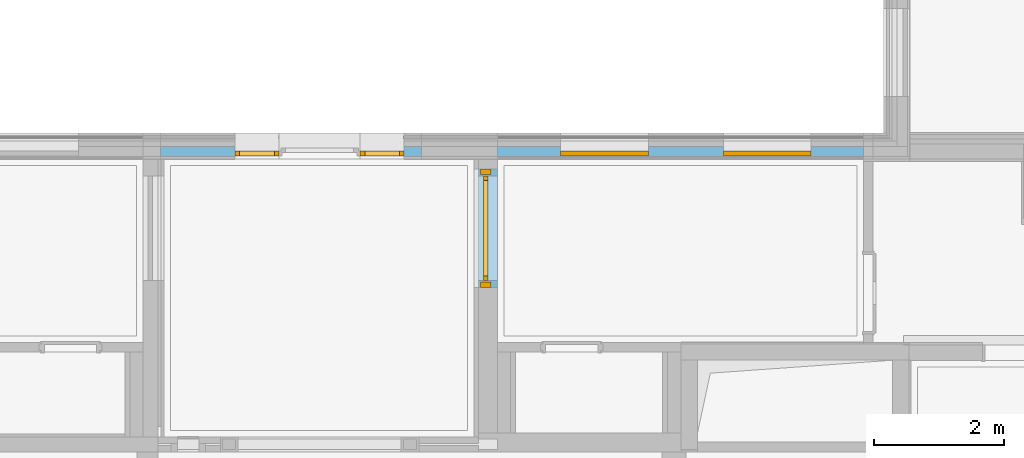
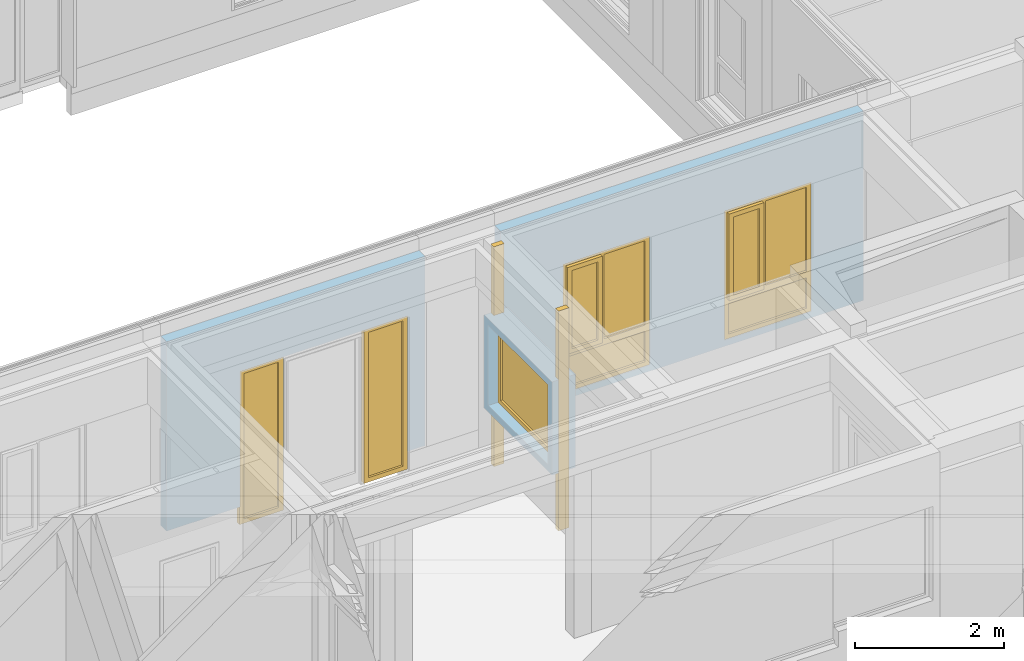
# One storey, part 104 of 207: 5 windows, 6 openings, plus 3 elements that do not belong to this part.
"""IFC4 building model written with IfcOpenShell, lengths in metres."""

from ifc_helpers import new_model, entity, si_unit, converted_unit, derived_unit, frame, frame_2d, origin, origin_with_axes, place, context, subcontext, project, spatial, polyline, rectangle, outline, extrude, closed_shell, open_shell, faceted_brep, surface_model, source, transform, mapped, material, element, fill, save


model = new_model("IFC4")

# Units and contexts
model_context = context("Model", 3, precision=1e-05, world=origin())
body_context = subcontext(model_context, "Body", "Model", "MODEL_VIEW")
ifc_project = project(units=[si_unit("LENGTHUNIT", "METRE"), si_unit("AREAUNIT", "SQUARE_METRE"), si_unit("VOLUMEUNIT", "CUBIC_METRE"), si_unit("MASSUNIT", "GRAM", prefix="KILO"), converted_unit("PLANEANGLEUNIT", "DEGREE", entity("IfcPlaneAngleMeasure", 0.0174532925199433), si_unit("PLANEANGLEUNIT", "RADIAN"), dimensions=[0, 0, 0, 0, 0, 0, 0]), derived_unit("THERMALTRANSMITTANCEUNIT", [(si_unit("POWERUNIT", "WATT"), 1), (si_unit("THERMODYNAMICTEMPERATUREUNIT", "KELVIN"), -1), (si_unit("LENGTHUNIT", "METRE"), -2)]), derived_unit("VOLUMETRICFLOWRATEUNIT", [(si_unit("LENGTHUNIT", "METRE"), 3), (converted_unit("TIMEUNIT", "hour", entity("IfcTimeMeasure", 3600.0), si_unit("TIMEUNIT", "SECOND"), dimensions=[0, 0, 1, 0, 0, 0, 0]), -1), (si_unit("LENGTHUNIT", "METRE"), -1)])], contexts=[model_context])

# Site, building, storey
site_placement = place(None, origin())
site = spatial("IfcSite", under=ifc_project, at=site_placement, Name="Psychiatrie Neubau Wunstorf", CompositionType="ELEMENT")
building_placement = place(site_placement, origin())
building = spatial("IfcBuilding", under=site, at=building_placement, Name="Neubau H2 Stationsgebäude", CompositionType="ELEMENT")
storey_placement = place(building_placement, frame((0.0, 0.0, -0.2)))
storey = spatial("IfcBuildingStorey", under=building, at=storey_placement, Name="H2 Ebene 0", CompositionType="ELEMENT", Elevation=-0.2)

# Wall, openings, windows
ifc_material_1 = material(Name="WA-HD")
wall_1_placement = place(storey_placement, frame((55.7325000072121, 10.1499996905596, 0.5)))
wall_1 = element("IfcWall", 1, at=wall_1_placement, inside=storey, material=ifc_material_1, context=body_context, shape_type="SweptSolid", body=[
    extrude(rectangle(XDim=5.61749999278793, YDim=0.16, at=frame_2d((2.80874999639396, 0.08), x_axis=(1.0, 0.0))), origin_with_axes(), (0.0, 0.0, 1.0), 3.1),
])
opening_1_placement = place(wall_1_placement, frame((4.81617713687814, 0.16, 0.1), z_axis=(0.0, -1.0, 0.0), x_axis=(0.0, 0.0, 1.0)))
opening_1 = element("IfcOpeningElement", 2, at=opening_1_placement, cuts=wall_1, Name="Fensteröffnung", ObjectType="Opening", context=body_context, shape_type="SweptSolid", body=[
    extrude(outline(polyline([(2.12, 1.35), (2.12, 0.0), (0.0, 0.0), (0.0, 1.35), (2.12, 1.35)])), origin_with_axes(), (0.0, 0.0, 1.0), 0.16),
])
opening_2_placement = place(wall_1_placement, frame((2.31617713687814, 0.16, 0.1), z_axis=(0.0, -1.0, 0.0), x_axis=(0.0, 0.0, 1.0)))
opening_2 = element("IfcOpeningElement", 3, at=opening_2_placement, cuts=wall_1, Name="Fensteröffnung", ObjectType="Opening", context=body_context, shape_type="SweptSolid", body=[
    extrude(outline(polyline([(2.12, 1.35), (2.12, 0.0), (0.0, 0.0), (0.0, 1.35), (2.12, 1.35)])), origin_with_axes(), (0.0, 0.0, 1.0), 0.16),
])
shared_shape_1 = source(origin_with_axes(), body_context, "Body", "SurfaceModel", [
    surface_model("IfcShellBasedSurfaceModel", [(0.0, 0.0, 2.12), (0.07, 0.0, 2.12), (0.07, 0.0, 0.0), (0.0, 0.0, 0.0), (0.0, 0.07, 0.0), (0.07, 0.07, 0.0), (0.07, 0.07, 2.12), (0.0, 0.07, 2.12)], [closed_shell([[[0, 1, 2, 3]], [[4, 5, 6, 7]], [[3, 4, 7, 0]], [[2, 5, 4, 3]], [[1, 6, 5, 2]], [[0, 7, 6, 1]]], orient=[[False], [False], [False], [False], [False], [False]])]),
    surface_model("IfcShellBasedSurfaceModel", [(1.28, 0.0, 2.12), (1.35, 0.0, 2.12), (1.35, 0.0, 0.0), (1.28, 0.0, 0.0), (1.28, 0.07, 0.0), (1.35, 0.07, 0.0), (1.35, 0.07, 2.12), (1.28, 0.07, 2.12)], [closed_shell([[[0, 1, 2, 3]], [[4, 5, 6, 7]], [[3, 4, 7, 0]], [[2, 5, 4, 3]], [[1, 6, 5, 2]], [[0, 7, 6, 1]]], orient=[[False], [False], [False], [False], [False], [False]])]),
    surface_model("IfcShellBasedSurfaceModel", [(0.07, 0.0, 0.07), (1.28, 0.0, 0.07), (1.28, 0.0, 0.0), (0.07, 0.0, 0.0), (0.07, 0.07, 0.0), (1.28, 0.07, 0.0), (1.28, 0.07, 0.07), (0.07, 0.07, 0.07)], [closed_shell([[[0, 1, 2, 3]], [[4, 5, 6, 7]], [[3, 4, 7, 0]], [[2, 5, 4, 3]], [[1, 6, 5, 2]], [[0, 7, 6, 1]]], orient=[[False], [False], [False], [False], [False], [False]])]),
    surface_model("IfcShellBasedSurfaceModel", [(0.07, 0.0, 2.12), (1.28, 0.0, 2.12), (1.28, 0.0, 2.05), (0.07, 0.0, 2.05), (0.07, 0.07, 2.05), (1.28, 0.07, 2.05), (1.28, 0.07, 2.12), (0.07, 0.07, 2.12)], [closed_shell([[[0, 1, 2, 3]], [[4, 5, 6, 7]], [[3, 4, 7, 0]], [[2, 5, 4, 3]], [[1, 6, 5, 2]], [[0, 7, 6, 1]]], orient=[[False], [False], [False], [False], [False], [False]])]),
    surface_model("IfcShellBasedSurfaceModel", [(0.07, 0.0, 0.67), (1.28, 0.0, 0.67), (1.28, 0.0, 0.57), (0.07, 0.0, 0.57), (0.07, 0.07, 0.57), (1.28, 0.07, 0.57), (1.28, 0.07, 0.67), (0.07, 0.07, 0.67)], [closed_shell([[[0, 1, 2, 3]], [[4, 5, 6, 7]], [[3, 4, 7, 0]], [[2, 5, 4, 3]], [[1, 6, 5, 2]], [[0, 7, 6, 1]]], orient=[[False], [False], [False], [False], [False], [False]])]),
    surface_model("IfcShellBasedSurfaceModel", [(0.07, 0.035, 0.07), (0.07, 0.035, 0.57), (1.28, 0.035, 0.57), (1.28, 0.035, 0.07)], [open_shell([[[0, 1, 2, 3]]], orient=[[False]])]),
    surface_model("IfcShellBasedSurfaceModel", [(0.57, 0.0, 2.05), (0.64, 0.0, 2.05), (0.64, 0.0, 0.67), (0.57, 0.0, 0.67), (0.57, 0.07, 0.67), (0.64, 0.07, 0.67), (0.64, 0.07, 2.05), (0.57, 0.07, 2.05)], [closed_shell([[[0, 1, 2, 3]], [[4, 5, 6, 7]], [[3, 4, 7, 0]], [[2, 5, 4, 3]], [[1, 6, 5, 2]], [[0, 7, 6, 1]]], orient=[[False], [False], [False], [False], [False], [False]])]),
    surface_model("IfcShellBasedSurfaceModel", [(0.05, -0.05, 2.07), (0.12, -0.05, 2.07), (0.12, -0.05, 0.65), (0.05, -0.05, 0.65), (0.05, 0.02, 0.65), (0.12, 0.02, 0.65), (0.12, 0.02, 2.07), (0.05, 0.02, 2.07)], [closed_shell([[[0, 1, 2, 3]], [[4, 5, 6, 7]], [[3, 4, 7, 0]], [[2, 5, 4, 3]], [[1, 6, 5, 2]], [[0, 7, 6, 1]]], orient=[[False], [False], [False], [False], [False], [False]])]),
    surface_model("IfcShellBasedSurfaceModel", [(0.52, -0.05, 2.07), (0.59, -0.05, 2.07), (0.59, -0.05, 0.65), (0.52, -0.05, 0.65), (0.52, 0.02, 0.65), (0.59, 0.02, 0.65), (0.59, 0.02, 2.07), (0.52, 0.02, 2.07)], [closed_shell([[[0, 1, 2, 3]], [[4, 5, 6, 7]], [[3, 4, 7, 0]], [[2, 5, 4, 3]], [[1, 6, 5, 2]], [[0, 7, 6, 1]]], orient=[[False], [False], [False], [False], [False], [False]])]),
    surface_model("IfcShellBasedSurfaceModel", [(0.12, -0.05, 0.72), (0.52, -0.05, 0.72), (0.52, -0.05, 0.65), (0.12, -0.05, 0.65), (0.12, 0.02, 0.65), (0.52, 0.02, 0.65), (0.52, 0.02, 0.72), (0.12, 0.02, 0.72)], [closed_shell([[[0, 1, 2, 3]], [[4, 5, 6, 7]], [[3, 4, 7, 0]], [[2, 5, 4, 3]], [[1, 6, 5, 2]], [[0, 7, 6, 1]]], orient=[[False], [False], [False], [False], [False], [False]])]),
    surface_model("IfcShellBasedSurfaceModel", [(0.12, -0.05, 2.07), (0.52, -0.05, 2.07), (0.52, -0.05, 2.0), (0.12, -0.05, 2.0), (0.12, 0.02, 2.0), (0.52, 0.02, 2.0), (0.52, 0.02, 2.07), (0.12, 0.02, 2.07)], [closed_shell([[[0, 1, 2, 3]], [[4, 5, 6, 7]], [[3, 4, 7, 0]], [[2, 5, 4, 3]], [[1, 6, 5, 2]], [[0, 7, 6, 1]]], orient=[[False], [False], [False], [False], [False], [False]])]),
    surface_model("IfcShellBasedSurfaceModel", [(0.64, 0.035, 0.67), (0.64, 0.035, 2.05), (1.28, 0.035, 2.05), (1.28, 0.035, 0.67)], [open_shell([[[0, 1, 2, 3]]], orient=[[False]])]),
    surface_model("IfcShellBasedSurfaceModel", [(0.12, -0.015, 0.72), (0.12, -0.015, 2.0), (0.52, -0.015, 2.0), (0.52, -0.015, 0.72)], [open_shell([[[0, 1, 2, 3]]], orient=[[False]])]),
])
window_1_placement = place(opening_1_placement, frame((0.0, 1.35, 0.146), z_axis=(1.0, 0.0, 0.0), x_axis=(0.0, -1.0, 0.0)))
window_1 = element("IfcWindow", 4, at=window_1_placement, inside=storey, Name="Fenster", OverallHeight=2.12, OverallWidth=1.35, PartitioningType="USERDEFINED", PredefinedType="WINDOW", context=body_context, shape_type="MappedRepresentation", body=[
    mapped(shared_shape_1, transform((0.0, 0.0, 0.0), x_axis=(1.0, 0.0, 0.0), y_axis=(0.0, 1.0, 0.0), z_axis=(0.0, 0.0, 1.0), scale=1.0)),
])
fill(opening_1, window_1)
shared_shape_2 = source(origin_with_axes(), body_context, "Body", "SurfaceModel", [
    surface_model("IfcShellBasedSurfaceModel", [(0.0, 0.0, 2.12), (0.07, 0.0, 2.12), (0.07, 0.0, 0.0), (0.0, 0.0, 0.0), (0.0, 0.07, 0.0), (0.07, 0.07, 0.0), (0.07, 0.07, 2.12), (0.0, 0.07, 2.12)], [closed_shell([[[0, 1, 2, 3]], [[4, 5, 6, 7]], [[3, 4, 7, 0]], [[2, 5, 4, 3]], [[1, 6, 5, 2]], [[0, 7, 6, 1]]], orient=[[False], [False], [False], [False], [False], [False]])]),
    surface_model("IfcShellBasedSurfaceModel", [(1.28, 0.0, 2.12), (1.35, 0.0, 2.12), (1.35, 0.0, 0.0), (1.28, 0.0, 0.0), (1.28, 0.07, 0.0), (1.35, 0.07, 0.0), (1.35, 0.07, 2.12), (1.28, 0.07, 2.12)], [closed_shell([[[0, 1, 2, 3]], [[4, 5, 6, 7]], [[3, 4, 7, 0]], [[2, 5, 4, 3]], [[1, 6, 5, 2]], [[0, 7, 6, 1]]], orient=[[False], [False], [False], [False], [False], [False]])]),
    surface_model("IfcShellBasedSurfaceModel", [(0.07, 0.0, 0.07), (1.28, 0.0, 0.07), (1.28, 0.0, 0.0), (0.07, 0.0, 0.0), (0.07, 0.07, 0.0), (1.28, 0.07, 0.0), (1.28, 0.07, 0.07), (0.07, 0.07, 0.07)], [closed_shell([[[0, 1, 2, 3]], [[4, 5, 6, 7]], [[3, 4, 7, 0]], [[2, 5, 4, 3]], [[1, 6, 5, 2]], [[0, 7, 6, 1]]], orient=[[False], [False], [False], [False], [False], [False]])]),
    surface_model("IfcShellBasedSurfaceModel", [(0.07, 0.0, 2.12), (1.28, 0.0, 2.12), (1.28, 0.0, 2.05), (0.07, 0.0, 2.05), (0.07, 0.07, 2.05), (1.28, 0.07, 2.05), (1.28, 0.07, 2.12), (0.07, 0.07, 2.12)], [closed_shell([[[0, 1, 2, 3]], [[4, 5, 6, 7]], [[3, 4, 7, 0]], [[2, 5, 4, 3]], [[1, 6, 5, 2]], [[0, 7, 6, 1]]], orient=[[False], [False], [False], [False], [False], [False]])]),
    surface_model("IfcShellBasedSurfaceModel", [(0.07, 0.0, 0.67), (1.28, 0.0, 0.67), (1.28, 0.0, 0.57), (0.07, 0.0, 0.57), (0.07, 0.07, 0.57), (1.28, 0.07, 0.57), (1.28, 0.07, 0.67), (0.07, 0.07, 0.67)], [closed_shell([[[0, 1, 2, 3]], [[4, 5, 6, 7]], [[3, 4, 7, 0]], [[2, 5, 4, 3]], [[1, 6, 5, 2]], [[0, 7, 6, 1]]], orient=[[False], [False], [False], [False], [False], [False]])]),
    surface_model("IfcShellBasedSurfaceModel", [(0.07, 0.035, 0.07), (0.07, 0.035, 0.57), (1.28, 0.035, 0.57), (1.28, 0.035, 0.07)], [open_shell([[[0, 1, 2, 3]]], orient=[[False]])]),
    surface_model("IfcShellBasedSurfaceModel", [(0.57, 0.0, 2.05), (0.64, 0.0, 2.05), (0.64, 0.0, 0.67), (0.57, 0.0, 0.67), (0.57, 0.07, 0.67), (0.64, 0.07, 0.67), (0.64, 0.07, 2.05), (0.57, 0.07, 2.05)], [closed_shell([[[0, 1, 2, 3]], [[4, 5, 6, 7]], [[3, 4, 7, 0]], [[2, 5, 4, 3]], [[1, 6, 5, 2]], [[0, 7, 6, 1]]], orient=[[False], [False], [False], [False], [False], [False]])]),
    surface_model("IfcShellBasedSurfaceModel", [(0.05, -0.05, 2.07), (0.12, -0.05, 2.07), (0.12, -0.05, 0.65), (0.05, -0.05, 0.65), (0.05, 0.02, 0.65), (0.12, 0.02, 0.65), (0.12, 0.02, 2.07), (0.05, 0.02, 2.07)], [closed_shell([[[0, 1, 2, 3]], [[4, 5, 6, 7]], [[3, 4, 7, 0]], [[2, 5, 4, 3]], [[1, 6, 5, 2]], [[0, 7, 6, 1]]], orient=[[False], [False], [False], [False], [False], [False]])]),
    surface_model("IfcShellBasedSurfaceModel", [(0.52, -0.05, 2.07), (0.59, -0.05, 2.07), (0.59, -0.05, 0.65), (0.52, -0.05, 0.65), (0.52, 0.02, 0.65), (0.59, 0.02, 0.65), (0.59, 0.02, 2.07), (0.52, 0.02, 2.07)], [closed_shell([[[0, 1, 2, 3]], [[4, 5, 6, 7]], [[3, 4, 7, 0]], [[2, 5, 4, 3]], [[1, 6, 5, 2]], [[0, 7, 6, 1]]], orient=[[False], [False], [False], [False], [False], [False]])]),
    surface_model("IfcShellBasedSurfaceModel", [(0.12, -0.05, 0.72), (0.52, -0.05, 0.72), (0.52, -0.05, 0.65), (0.12, -0.05, 0.65), (0.12, 0.02, 0.65), (0.52, 0.02, 0.65), (0.52, 0.02, 0.72), (0.12, 0.02, 0.72)], [closed_shell([[[0, 1, 2, 3]], [[4, 5, 6, 7]], [[3, 4, 7, 0]], [[2, 5, 4, 3]], [[1, 6, 5, 2]], [[0, 7, 6, 1]]], orient=[[False], [False], [False], [False], [False], [False]])]),
    surface_model("IfcShellBasedSurfaceModel", [(0.12, -0.05, 2.07), (0.52, -0.05, 2.07), (0.52, -0.05, 2.0), (0.12, -0.05, 2.0), (0.12, 0.02, 2.0), (0.52, 0.02, 2.0), (0.52, 0.02, 2.07), (0.12, 0.02, 2.07)], [closed_shell([[[0, 1, 2, 3]], [[4, 5, 6, 7]], [[3, 4, 7, 0]], [[2, 5, 4, 3]], [[1, 6, 5, 2]], [[0, 7, 6, 1]]], orient=[[False], [False], [False], [False], [False], [False]])]),
    surface_model("IfcShellBasedSurfaceModel", [(0.64, 0.035, 0.67), (0.64, 0.035, 2.05), (1.28, 0.035, 2.05), (1.28, 0.035, 0.67)], [open_shell([[[0, 1, 2, 3]]], orient=[[False]])]),
    surface_model("IfcShellBasedSurfaceModel", [(0.12, -0.015, 0.72), (0.12, -0.015, 2.0), (0.52, -0.015, 2.0), (0.52, -0.015, 0.72)], [open_shell([[[0, 1, 2, 3]]], orient=[[False]])]),
])
window_2_placement = place(opening_2_placement, frame((0.0, 1.35, 0.146), z_axis=(1.0, 0.0, 0.0), x_axis=(0.0, -1.0, 0.0)))
window_2 = element("IfcWindow", 5, at=window_2_placement, inside=storey, Name="Fenster", OverallHeight=2.12, OverallWidth=1.35, PartitioningType="USERDEFINED", PredefinedType="WINDOW", context=body_context, shape_type="MappedRepresentation", body=[
    mapped(shared_shape_2, transform((0.0, 0.0, 0.0), x_axis=(1.0, 0.0, 0.0), y_axis=(0.0, 1.0, 0.0), z_axis=(0.0, 0.0, 1.0), scale=1.0)),
])
fill(opening_2, window_2)

ifc_material_2 = material(Name="WA-HD")
wall_2_placement = place(storey_placement, frame((50.5580000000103, 10.1499996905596, 0.5)))
wall_2 = element("IfcWall", 6, at=wall_2_placement, inside=storey, material=ifc_material_2, context=body_context, shape_type="SweptSolid", body=[
    extrude(rectangle(XDim=4.00450000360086, YDim=0.16, at=frame_2d((2.00225000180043, 0.08), x_axis=(1.0, 0.0))), origin_with_axes(), (0.0, 0.0, 1.0), 3.1),
])
opening_3_placement = place(wall_2_placement, frame((1.81567714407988, 0.16, -0.3), z_axis=(0.0, -1.0, 0.0), x_axis=(0.0, 0.0, 1.0)))
opening_3 = element("IfcOpeningElement", 7, at=opening_3_placement, cuts=wall_2, Name="Fensteröffnung", ObjectType="Opening", context=body_context, shape_type="SweptSolid", body=[
    extrude(outline(polyline([(2.52, 0.675), (2.52, 0.0), (0.0, 0.0), (0.0, 0.675), (2.52, 0.675)])), origin_with_axes(), (0.0, 0.0, 1.0), 0.16),
])
opening_4_placement = place(wall_2_placement, frame((3.06570000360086, 0.16, -0.5), z_axis=(0.0, -1.0, 0.0), x_axis=(0.0, 0.0, 1.0)))
element("IfcOpeningElement", 8, at=opening_4_placement, cuts=wall_2, Name="Türöffnung", ObjectType="Opening", context=body_context, shape_type="SweptSolid", body=[
    extrude(outline(polyline([(2.72, 1.25), (2.72, 0.0), (0.0, 0.0), (0.0, 1.25), (2.72, 1.25)])), origin_with_axes(), (0.0, 0.0, 1.0), 0.16),
])
opening_5_placement = place(wall_2_placement, frame((3.74070000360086, 0.16, -0.3), z_axis=(0.0, -1.0, 0.0), x_axis=(0.0, 0.0, 1.0)))
opening_5 = element("IfcOpeningElement", 9, at=opening_5_placement, cuts=wall_2, Name="Fensteröffnung", ObjectType="Opening", context=body_context, shape_type="SweptSolid", body=[
    extrude(outline(polyline([(2.52, 0.675), (2.52, 0.0), (0.0, 0.0), (0.0, 0.675), (2.52, 0.675)])), origin_with_axes(), (0.0, 0.0, 1.0), 0.16),
])
shared_shape_3 = source(origin_with_axes(), body_context, "Body", "SurfaceModel", [
    surface_model("IfcShellBasedSurfaceModel", [(0.675, 0.0, 2.52), (0.675, 0.0, 0.0), (0.605, 0.0, 0.0), (0.605, 0.0, 2.52), (0.675, 0.07, 0.0), (0.675, 0.07, 2.52), (0.605, 0.07, 2.52), (0.605, 0.07, 0.0)], [closed_shell([[[0, 1, 2, 3]], [[4, 5, 6, 7]], [[1, 0, 5, 4]], [[2, 1, 4, 7]], [[3, 2, 7, 6]], [[0, 3, 6, 5]]], orient=[[False], [False], [False], [False], [False], [False]])]),
    surface_model("IfcShellBasedSurfaceModel", [(0.07, 0.0, 2.52), (0.07, 0.0, 0.0), (0.0, 0.0, 0.0), (0.0, 0.0, 2.52), (0.07, 0.07, 0.0), (0.07, 0.07, 2.52), (0.0, 0.07, 2.52), (0.0, 0.07, 0.0)], [closed_shell([[[0, 1, 2, 3]], [[4, 5, 6, 7]], [[1, 0, 5, 4]], [[2, 1, 4, 7]], [[3, 2, 7, 6]], [[0, 3, 6, 5]]], orient=[[False], [False], [False], [False], [False], [False]])]),
    surface_model("IfcShellBasedSurfaceModel", [(0.605, 0.0, 0.07), (0.605, 0.0, 0.0), (0.07, 0.0, 0.0), (0.07, 0.0, 0.07), (0.605, 0.07, 0.0), (0.605, 0.07, 0.07), (0.07, 0.07, 0.07), (0.07, 0.07, 0.0)], [closed_shell([[[0, 1, 2, 3]], [[4, 5, 6, 7]], [[1, 0, 5, 4]], [[2, 1, 4, 7]], [[3, 2, 7, 6]], [[0, 3, 6, 5]]], orient=[[False], [False], [False], [False], [False], [False]])]),
    surface_model("IfcShellBasedSurfaceModel", [(0.605, 0.0, 2.52), (0.605, 0.0, 2.45), (0.07, 0.0, 2.45), (0.07, 0.0, 2.52), (0.605, 0.07, 2.45), (0.605, 0.07, 2.52), (0.07, 0.07, 2.52), (0.07, 0.07, 2.45)], [closed_shell([[[0, 1, 2, 3]], [[4, 5, 6, 7]], [[1, 0, 5, 4]], [[2, 1, 4, 7]], [[3, 2, 7, 6]], [[0, 3, 6, 5]]], orient=[[False], [False], [False], [False], [False], [False]])]),
    surface_model("IfcShellBasedSurfaceModel", [(0.605, 0.035, 0.07), (0.07, 0.035, 0.07), (0.07, 0.035, 2.45), (0.605, 0.035, 2.45)], [open_shell([[[0, 1, 2, 3]]], orient=[[False]])]),
])
window_3_placement = place(opening_3_placement, frame((0.0, 0.0, 0.076), z_axis=(1.0, 0.0, 0.0), x_axis=(0.0, 1.0, 0.0)))
window_3 = element("IfcWindow", 10, at=window_3_placement, inside=storey, Name="Fenster", OverallHeight=2.52, OverallWidth=0.675, PartitioningType="USERDEFINED", PredefinedType="WINDOW", context=body_context, shape_type="MappedRepresentation", body=[
    mapped(shared_shape_3, transform((0.0, 0.0, 0.0), x_axis=(1.0, 0.0, 0.0), y_axis=(0.0, 1.0, 0.0), z_axis=(0.0, 0.0, 1.0), scale=1.0)),
])
fill(opening_3, window_3)
shared_shape_4 = source(origin_with_axes(), body_context, "Body", "SurfaceModel", [
    surface_model("IfcShellBasedSurfaceModel", [(0.675, 0.0, 2.52), (0.675, 0.0, 0.0), (0.605, 0.0, 0.0), (0.605, 0.0, 2.52), (0.675, 0.07, 0.0), (0.675, 0.07, 2.52), (0.605, 0.07, 2.52), (0.605, 0.07, 0.0)], [closed_shell([[[0, 1, 2, 3]], [[4, 5, 6, 7]], [[1, 0, 5, 4]], [[2, 1, 4, 7]], [[3, 2, 7, 6]], [[0, 3, 6, 5]]], orient=[[False], [False], [False], [False], [False], [False]])]),
    surface_model("IfcShellBasedSurfaceModel", [(0.07, 0.0, 2.52), (0.07, 0.0, 0.0), (0.0, 0.0, 0.0), (0.0, 0.0, 2.52), (0.07, 0.07, 0.0), (0.07, 0.07, 2.52), (0.0, 0.07, 2.52), (0.0, 0.07, 0.0)], [closed_shell([[[0, 1, 2, 3]], [[4, 5, 6, 7]], [[1, 0, 5, 4]], [[2, 1, 4, 7]], [[3, 2, 7, 6]], [[0, 3, 6, 5]]], orient=[[False], [False], [False], [False], [False], [False]])]),
    surface_model("IfcShellBasedSurfaceModel", [(0.605, 0.0, 0.07), (0.605, 0.0, 0.0), (0.07, 0.0, 0.0), (0.07, 0.0, 0.07), (0.605, 0.07, 0.0), (0.605, 0.07, 0.07), (0.07, 0.07, 0.07), (0.07, 0.07, 0.0)], [closed_shell([[[0, 1, 2, 3]], [[4, 5, 6, 7]], [[1, 0, 5, 4]], [[2, 1, 4, 7]], [[3, 2, 7, 6]], [[0, 3, 6, 5]]], orient=[[False], [False], [False], [False], [False], [False]])]),
    surface_model("IfcShellBasedSurfaceModel", [(0.605, 0.0, 2.52), (0.605, 0.0, 2.45), (0.07, 0.0, 2.45), (0.07, 0.0, 2.52), (0.605, 0.07, 2.45), (0.605, 0.07, 2.52), (0.07, 0.07, 2.52), (0.07, 0.07, 2.45)], [closed_shell([[[0, 1, 2, 3]], [[4, 5, 6, 7]], [[1, 0, 5, 4]], [[2, 1, 4, 7]], [[3, 2, 7, 6]], [[0, 3, 6, 5]]], orient=[[False], [False], [False], [False], [False], [False]])]),
    surface_model("IfcShellBasedSurfaceModel", [(0.605, 0.035, 0.07), (0.07, 0.035, 0.07), (0.07, 0.035, 2.45), (0.605, 0.035, 2.45)], [open_shell([[[0, 1, 2, 3]]], orient=[[False]])]),
])
window_4_placement = place(opening_5_placement, frame((0.0, 0.0, 0.076), z_axis=(1.0, 0.0, 0.0), x_axis=(0.0, 1.0, 0.0)))
window_4 = element("IfcWindow", 11, at=window_4_placement, inside=storey, Name="Fenster", OverallHeight=2.52, OverallWidth=0.675, PartitioningType="USERDEFINED", PredefinedType="WINDOW", context=body_context, shape_type="MappedRepresentation", body=[
    mapped(shared_shape_4, transform((0.0, 0.0, 0.0), x_axis=(1.0, 0.0, 0.0), y_axis=(0.0, 1.0, 0.0), z_axis=(0.0, 0.0, 1.0), scale=1.0)),
])
fill(opening_5, window_4)

# Wall, opening, window
ifc_material_3 = material(Name="WI-LW 60")
wall_3_placement = place(storey_placement, frame((55.3675000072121, 9.95899969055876, 0.95), z_axis=(0.0, 0.0, 1.0), x_axis=(0.0, -1.0, 0.0)))
wall_3 = element("IfcWall", 12, at=wall_3_placement, inside=storey, material=ifc_material_3, context=body_context, shape_type="SweptSolid", body=[
    extrude(rectangle(XDim=1.815, YDim=0.365, at=frame_2d((0.9075, 0.1825), x_axis=(1.0, 0.0))), origin_with_axes(), (0.0, 0.0, 1.0), 1.525),
])
opening_6_placement = place(wall_3_placement, frame((0.1075, 0.0, 0.1075), z_axis=(0.0, 1.0, 0.0), x_axis=(0.0, 0.0, 1.0)))
opening_6 = element("IfcOpeningElement", 13, at=opening_6_placement, cuts=wall_3, Name="Fensteröffnung", ObjectType="Opening", context=body_context, shape_type="SweptSolid", body=[
    extrude(outline(polyline([(1.31, 1.6), (1.31, 0.0), (0.0, 0.0), (0.0, 1.6), (1.31, 1.6)])), origin_with_axes(), (0.0, 0.0, 1.0), 0.365),
])
shared_shape_5 = source(origin_with_axes(), body_context, "Body", "Brep", [
    faceted_brep([(-0.107499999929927, -0.0444999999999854, -1.0575), (-0.0274999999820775, -0.0444999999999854, -1.0575), (-0.0274999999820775, 0.115500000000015, -1.0575), (-0.107499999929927, 0.115500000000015, -1.0575), (-0.107499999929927, 0.115500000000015, 2.5425), (-0.0274999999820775, 0.115500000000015, 2.5425), (-0.0274999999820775, -0.0444999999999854, 2.5425), (-0.107499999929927, -0.0444999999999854, 2.5425)], [[[0, 1, 2, 3]], [[4, 5, 6, 7]], [[3, 4, 7, 0]], [[2, 5, 4, 3]], [[1, 6, 5, 2]], [[0, 7, 6, 1]]], orient=[[False], [False], [False], [False], [False], [False]]),
    faceted_brep([(1.62749999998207, -0.0444999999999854, -1.0575), (1.70749999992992, -0.0444999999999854, -1.0575), (1.70749999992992, 0.115500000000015, -1.0575), (1.62749999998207, 0.115500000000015, -1.0575), (1.62749999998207, 0.115500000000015, 2.5425), (1.70749999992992, 0.115500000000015, 2.5425), (1.70749999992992, -0.0444999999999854, 2.5425), (1.62749999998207, -0.0444999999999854, 2.5425)], [[[0, 1, 2, 3]], [[4, 5, 6, 7]], [[3, 4, 7, 0]], [[2, 5, 4, 3]], [[1, 6, 5, 2]], [[0, 7, 6, 1]]], orient=[[False], [False], [False], [False], [False], [False]]),
])
shared_shape_6 = source(origin_with_axes(), body_context, "Body", "SurfaceModel", [
    surface_model("IfcShellBasedSurfaceModel", [(1.6, 0.000500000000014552, 1.31), (1.6, 0.000500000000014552, 0.0), (1.53, 0.000500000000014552, 0.0), (1.53, 0.000500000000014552, 1.31), (1.6, 0.0705000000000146, 0.0), (1.6, 0.0705000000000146, 1.31), (1.53, 0.0705000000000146, 1.31), (1.53, 0.0705000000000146, 0.0)], [closed_shell([[[0, 1, 2, 3]], [[4, 5, 6, 7]], [[1, 0, 5, 4]], [[2, 1, 4, 7]], [[3, 2, 7, 6]], [[0, 3, 6, 5]]], orient=[[False], [False], [False], [False], [False], [False]])]),
    surface_model("IfcShellBasedSurfaceModel", [(0.0699999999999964, 0.000500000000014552, 1.31), (0.0699999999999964, 0.000500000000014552, 0.0), (0.0, 0.000500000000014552, 0.0), (0.0, 0.000500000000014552, 1.31), (0.0699999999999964, 0.0705000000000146, 0.0), (0.0699999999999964, 0.0705000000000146, 1.31), (0.0, 0.0705000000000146, 1.31), (0.0, 0.0705000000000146, 0.0)], [closed_shell([[[0, 1, 2, 3]], [[4, 5, 6, 7]], [[1, 0, 5, 4]], [[2, 1, 4, 7]], [[3, 2, 7, 6]], [[0, 3, 6, 5]]], orient=[[False], [False], [False], [False], [False], [False]])]),
    surface_model("IfcShellBasedSurfaceModel", [(1.53, 0.000500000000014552, 0.07), (1.53, 0.000500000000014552, 0.0), (0.0699999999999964, 0.000500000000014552, 0.0), (0.0699999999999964, 0.000500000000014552, 0.07), (1.53, 0.0705000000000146, 0.0), (1.53, 0.0705000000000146, 0.07), (0.0699999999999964, 0.0705000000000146, 0.07), (0.0699999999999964, 0.0705000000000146, 0.0)], [closed_shell([[[0, 1, 2, 3]], [[4, 5, 6, 7]], [[1, 0, 5, 4]], [[2, 1, 4, 7]], [[3, 2, 7, 6]], [[0, 3, 6, 5]]], orient=[[False], [False], [False], [False], [False], [False]])]),
    surface_model("IfcShellBasedSurfaceModel", [(1.53, 0.000500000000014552, 1.31), (1.53, 0.000500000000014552, 1.24), (0.0699999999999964, 0.000500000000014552, 1.24), (0.0699999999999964, 0.000500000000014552, 1.31), (1.53, 0.0705000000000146, 1.24), (1.53, 0.0705000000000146, 1.31), (0.0699999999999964, 0.0705000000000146, 1.31), (0.0699999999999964, 0.0705000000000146, 1.24)], [closed_shell([[[0, 1, 2, 3]], [[4, 5, 6, 7]], [[1, 0, 5, 4]], [[2, 1, 4, 7]], [[3, 2, 7, 6]], [[0, 3, 6, 5]]], orient=[[False], [False], [False], [False], [False], [False]])]),
    surface_model("IfcShellBasedSurfaceModel", [(1.53, 0.0355000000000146, 0.07), (0.0699999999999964, 0.0355000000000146, 0.07), (0.0699999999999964, 0.0355000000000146, 1.24), (1.53, 0.0355000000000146, 1.24)], [open_shell([[[0, 1, 2, 3]]], orient=[[False]])]),
])
window_5_placement = place(opening_6_placement, frame((0.0, 1.6, 0.218), z_axis=(1.0, 0.0, 0.0), x_axis=(0.0, -1.0, 0.0)))
window_5 = element("IfcWindow", 14, at=window_5_placement, inside=storey, Name="Fenster", OverallHeight=1.31, OverallWidth=1.6, PartitioningType="USERDEFINED", PredefinedType="WINDOW", context=body_context, shape_type="MappedRepresentation", body=[
    mapped(shared_shape_5, transform((0.0, 0.0, 0.0), x_axis=(1.0, 0.0, 0.0), y_axis=(0.0, 1.0, 0.0), z_axis=(0.0, 0.0, 1.0), scale=1.0)),
    mapped(shared_shape_6, transform((0.0, 0.0, 0.0), x_axis=(1.0, 0.0, 0.0), y_axis=(0.0, 1.0, 0.0), z_axis=(0.0, 0.0, 1.0), scale=1.0)),
])
fill(opening_6, window_5)

save(model, "model.ifc")
